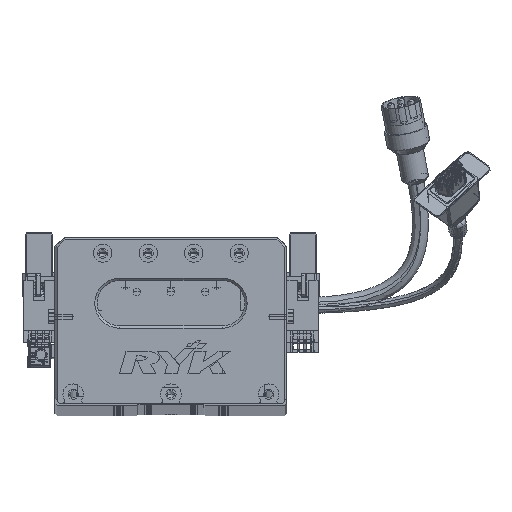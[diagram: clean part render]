
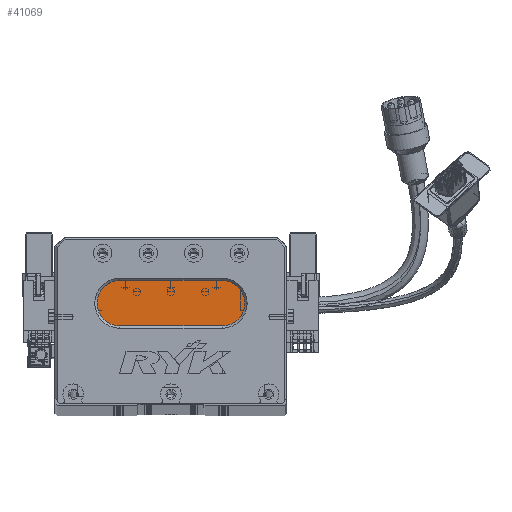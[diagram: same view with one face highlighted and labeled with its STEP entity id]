
A CAD part, top view. The second image highlights one B-rep face of the part: STEP entity #41069.
In plain terms, the highlighted planar face has unit normal (0, 0, 1) as drawn and (0, 0, -1) by its records, which use the part's own axes.
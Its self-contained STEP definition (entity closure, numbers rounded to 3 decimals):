
#451 = CARTESIAN_POINT ( 'NONE',  ( 28.5, 44., 13. ) ) ;
#1735 = AXIS2_PLACEMENT_3D ( 'NONE', #68187, #14844, #62372 ) ;
#3559 = EDGE_CURVE ( 'NONE', #53613, #85158, #28220, .T. ) ;
#4177 = EDGE_CURVE ( 'NONE', #50647, #54808, #4341, .T. ) ;
#4341 = CIRCLE ( 'NONE', #30248, 10. ) ;
#5643 = CARTESIAN_POINT ( 'NONE',  ( 73.5, 34., 13. ) ) ;
#5822 = ORIENTED_EDGE ( 'NONE', *, *, #4177, .T. ) ;
#6374 = PLANE ( 'NONE',  #11015 ) ;
#11015 = AXIS2_PLACEMENT_3D ( 'NONE', #19994, #66351, #77378 ) ;
#11048 = VECTOR ( 'NONE', #20757, 1000. ) ;
#14844 = DIRECTION ( 'NONE',  ( 0., 0., -1. ) ) ;
#19878 = DIRECTION ( 'NONE',  ( -1., 0., 0. ) ) ;
#19994 = CARTESIAN_POINT ( 'NONE',  ( 73.5, 44., 13. ) ) ;
#20499 = CARTESIAN_POINT ( 'NONE',  ( 73.5, 44., 13. ) ) ;
#20757 = DIRECTION ( 'NONE',  ( -1., 0., 0. ) ) ;
#21652 = DIRECTION ( 'NONE',  ( -1., 0., 0. ) ) ;
#24400 = EDGE_CURVE ( 'NONE', #54808, #46983, #46315, .T. ) ;
#27194 = DIRECTION ( 'NONE',  ( 0., 0., -1. ) ) ;
#28220 = CIRCLE ( 'NONE', #79661, 10. ) ;
#30248 = AXIS2_PLACEMENT_3D ( 'NONE', #20499, #27194, #21652 ) ;
#34749 = CARTESIAN_POINT ( 'NONE',  ( 28.5, 54., 13. ) ) ;
#35245 = ORIENTED_EDGE ( 'NONE', *, *, #77126, .T. ) ;
#36368 = ORIENTED_EDGE ( 'NONE', *, *, #24400, .T. ) ;
#41069 = ADVANCED_FACE ( 'NONE', ( #67865 ), #6374, .T. ) ;
#41781 = CARTESIAN_POINT ( 'NONE',  ( 73.5, 54., 13. ) ) ;
#46315 = LINE ( 'NONE', #80786, #11048 ) ;
#46983 = VERTEX_POINT ( 'NONE', #78726 ) ;
#50647 = VERTEX_POINT ( 'NONE', #54870 ) ;
#53613 = VERTEX_POINT ( 'NONE', #57950 ) ;
#54808 = VERTEX_POINT ( 'NONE', #5643 ) ;
#54870 = CARTESIAN_POINT ( 'NONE',  ( 73.5, 54., 13. ) ) ;
#57950 = CARTESIAN_POINT ( 'NONE',  ( 18.5, 44., 13. ) ) ;
#59421 = ORIENTED_EDGE ( 'NONE', *, *, #3559, .T. ) ;
#61173 = DIRECTION ( 'NONE',  ( 1., 0., 0. ) ) ;
#61616 = LINE ( 'NONE', #41781, #83486 ) ;
#62372 = DIRECTION ( 'NONE',  ( -1., 0., 0. ) ) ;
#63403 = EDGE_CURVE ( 'NONE', #46983, #53613, #75335, .T. ) ;
#66351 = DIRECTION ( 'NONE',  ( 0., 0., -1. ) ) ;
#67865 = FACE_OUTER_BOUND ( 'NONE', #80570, .T. ) ;
#68187 = CARTESIAN_POINT ( 'NONE',  ( 28.5, 44., 13. ) ) ;
#72895 = DIRECTION ( 'NONE',  ( 0., 0., -1. ) ) ;
#75335 = CIRCLE ( 'NONE', #1735, 10. ) ;
#77126 = EDGE_CURVE ( 'NONE', #85158, #50647, #61616, .T. ) ;
#77378 = DIRECTION ( 'NONE',  ( -1., 0., 0. ) ) ;
#78726 = CARTESIAN_POINT ( 'NONE',  ( 28.5, 34., 13. ) ) ;
#79661 = AXIS2_PLACEMENT_3D ( 'NONE', #451, #72895, #19878 ) ;
#80570 = EDGE_LOOP ( 'NONE', ( #5822, #36368, #86014, #59421, #35245 ) ) ;
#80786 = CARTESIAN_POINT ( 'NONE',  ( 73.5, 34., 13. ) ) ;
#83486 = VECTOR ( 'NONE', #61173, 1000. ) ;
#85158 = VERTEX_POINT ( 'NONE', #34749 ) ;
#86014 = ORIENTED_EDGE ( 'NONE', *, *, #63403, .T. ) ;
